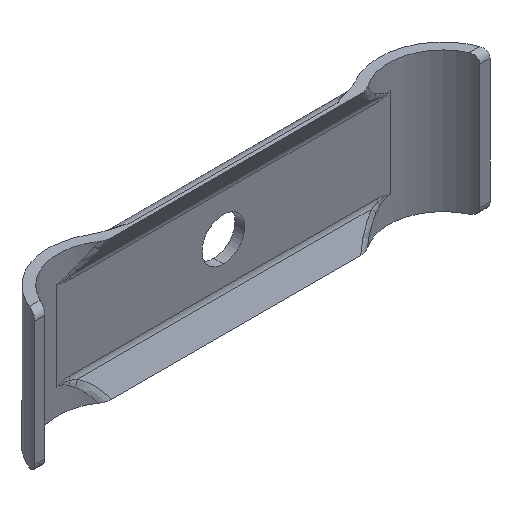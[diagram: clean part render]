
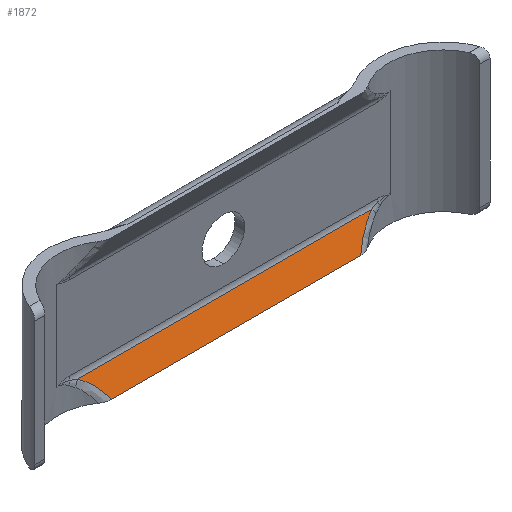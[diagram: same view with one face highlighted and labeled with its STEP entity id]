
A CAD part, isometric view. The second image highlights one B-rep face of the part: STEP entity #1872.
In plain terms, the highlighted planar face has unit normal (0, -0.894, 0.447).
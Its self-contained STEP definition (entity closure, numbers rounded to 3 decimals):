
#17 = FACE_OUTER_BOUND ( 'NONE', #2517, .T. ) ;
#80 = CARTESIAN_POINT ( 'NONE',  ( -37.903, 13.683, -12.043 ) ) ;
#115 = CARTESIAN_POINT ( 'NONE',  ( -33.776, 12.076, -15.258 ) ) ;
#200 = EDGE_CURVE ( 'NONE', #919, #1734, #819, .T. ) ;
#415 = DIRECTION ( 'NONE',  ( 1., 0., 0. ) ) ;
#428 = ORIENTED_EDGE ( 'NONE', *, *, #2268, .T. ) ;
#494 = VERTEX_POINT ( 'NONE', #2365 ) ;
#548 = CARTESIAN_POINT ( 'NONE',  ( 37.903, 13.683, -12.043 ) ) ;
#608 = ORIENTED_EDGE ( 'NONE', *, *, #200, .T. ) ;
#627 = VECTOR ( 'NONE', #2626, 1000. ) ;
#649 = CARTESIAN_POINT ( 'NONE',  ( -500000., 14., -11.41 ) ) ;
#681 = CARTESIAN_POINT ( 'NONE',  ( -42.5, 13.683, -12.043 ) ) ;
#693 = VECTOR ( 'NONE', #415, 1000. ) ;
#727 = LINE ( 'NONE', #2361, #693 ) ;
#733 = CARTESIAN_POINT ( 'NONE',  ( -32.024, 10.705, -18. ) ) ;
#800 = EDGE_CURVE ( 'NONE', #1734, #494, #727, .T. ) ;
#819 =( BOUNDED_CURVE ( )  B_SPLINE_CURVE ( 3, ( #2669, #1817, #115, #733 ),
 .UNSPECIFIED., .F., .T. ) 
 B_SPLINE_CURVE_WITH_KNOTS ( ( 4, 4 ),
 ( 3.415, 3.806 ),
 .UNSPECIFIED. ) 
 CURVE ( )  GEOMETRIC_REPRESENTATION_ITEM ( )  RATIONAL_B_SPLINE_CURVE ( ( 1., 0.987, 0.987, 1. ) ) 
 REPRESENTATION_ITEM ( '' )  );
#826 = DIRECTION ( 'NONE',  ( 0., -0.894, 0.447 ) ) ;
#828 = AXIS2_PLACEMENT_3D ( 'NONE', #649, #826, #2755 ) ;
#916 = VERTEX_POINT ( 'NONE', #1581 ) ;
#919 = VERTEX_POINT ( 'NONE', #80 ) ;
#1086 = ORIENTED_EDGE ( 'NONE', *, *, #800, .T. ) ;
#1122 = ORIENTED_EDGE ( 'NONE', *, *, #2585, .T. ) ;
#1201 = CARTESIAN_POINT ( 'NONE',  ( 35.761, 13.082, -13.247 ) ) ;
#1581 = CARTESIAN_POINT ( 'NONE',  ( 37.903, 13.683, -12.043 ) ) ;
#1616 = CARTESIAN_POINT ( 'NONE',  ( 33.776, 12.076, -15.258 ) ) ;
#1733 = PLANE ( 'NONE',  #828 ) ;
#1734 = VERTEX_POINT ( 'NONE', #2453 ) ;
#1748 = LINE ( 'NONE', #681, #627 ) ;
#1817 = CARTESIAN_POINT ( 'NONE',  ( -35.761, 13.082, -13.247 ) ) ;
#1872 = ADVANCED_FACE ( 'NONE', ( #17 ), #1733, .T. ) ;
#2239 =( BOUNDED_CURVE ( )  B_SPLINE_CURVE ( 3, ( #2475, #1616, #1201, #548 ),
 .UNSPECIFIED., .F., .F. ) 
 B_SPLINE_CURVE_WITH_KNOTS ( ( 4, 4 ),
 ( 2.478, 2.868 ),
 .UNSPECIFIED. ) 
 CURVE ( )  GEOMETRIC_REPRESENTATION_ITEM ( )  RATIONAL_B_SPLINE_CURVE ( ( 1., 0.987, 0.987, 1. ) ) 
 REPRESENTATION_ITEM ( '' )  );
#2268 = EDGE_CURVE ( 'NONE', #494, #916, #2239, .T. ) ;
#2361 = CARTESIAN_POINT ( 'NONE',  ( -500000., 10.705, -18. ) ) ;
#2365 = CARTESIAN_POINT ( 'NONE',  ( 32.024, 10.705, -18. ) ) ;
#2453 = CARTESIAN_POINT ( 'NONE',  ( -32.024, 10.705, -18. ) ) ;
#2475 = CARTESIAN_POINT ( 'NONE',  ( 32.024, 10.705, -18. ) ) ;
#2517 = EDGE_LOOP ( 'NONE', ( #1122, #608, #1086, #428 ) ) ;
#2585 = EDGE_CURVE ( 'NONE', #916, #919, #1748, .T. ) ;
#2626 = DIRECTION ( 'NONE',  ( -1., 0., 0. ) ) ;
#2669 = CARTESIAN_POINT ( 'NONE',  ( -37.903, 13.683, -12.043 ) ) ;
#2755 = DIRECTION ( 'NONE',  ( 0., -0.447, -0.894 ) ) ;
